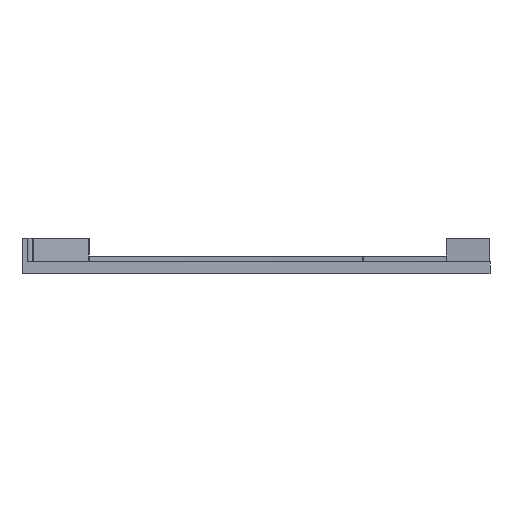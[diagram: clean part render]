
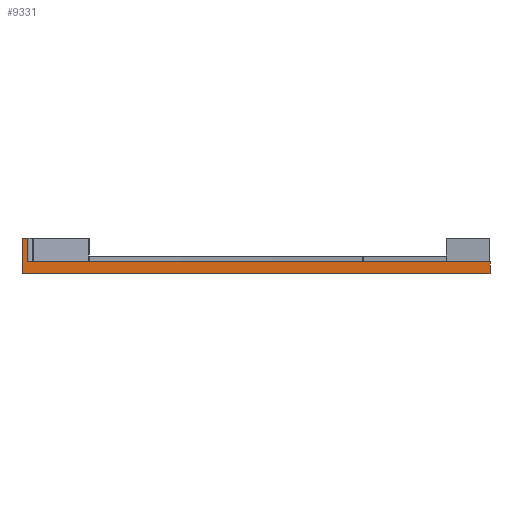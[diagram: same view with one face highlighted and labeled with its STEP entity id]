
A CAD part, front view. The second image highlights one B-rep face of the part: STEP entity #9331.
In plain terms, the highlighted planar face has unit normal (0, -1, 0).
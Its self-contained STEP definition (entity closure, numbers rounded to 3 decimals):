
#1246=FACE_OUTER_BOUND('',#1823,.T.);
#1823=EDGE_LOOP('',(#8435,#8436,#8437,#8438,#8439,#8440));
#2683=LINE('',#17256,#3570);
#2698=LINE('',#17307,#3585);
#2702=LINE('',#17319,#3589);
#2708=LINE('',#17335,#3595);
#2709=LINE('',#17337,#3596);
#2710=LINE('',#17338,#3597);
#3570=VECTOR('',#11058,10.);
#3585=VECTOR('',#11117,10.);
#3589=VECTOR('',#11127,10.);
#3595=VECTOR('',#11143,10.);
#3596=VECTOR('',#11146,10.);
#3597=VECTOR('',#11147,10.);
#4466=VERTEX_POINT('',#17253);
#4467=VERTEX_POINT('',#17255);
#4480=VERTEX_POINT('',#17304);
#4481=VERTEX_POINT('',#17306);
#4485=VERTEX_POINT('',#17316);
#4486=VERTEX_POINT('',#17318);
#5778=EDGE_CURVE('',#4467,#4466,#2683,.T.);
#5798=EDGE_CURVE('',#4480,#4481,#2698,.T.);
#5803=EDGE_CURVE('',#4485,#4486,#2702,.T.);
#5812=EDGE_CURVE('',#4466,#4481,#2708,.T.);
#5813=EDGE_CURVE('',#4480,#4486,#2709,.T.);
#5814=EDGE_CURVE('',#4467,#4485,#2710,.T.);
#8435=ORIENTED_EDGE('',*,*,#5812,.T.);
#8436=ORIENTED_EDGE('',*,*,#5798,.F.);
#8437=ORIENTED_EDGE('',*,*,#5813,.T.);
#8438=ORIENTED_EDGE('',*,*,#5803,.F.);
#8439=ORIENTED_EDGE('',*,*,#5814,.F.);
#8440=ORIENTED_EDGE('',*,*,#5778,.T.);
#8769=PLANE('',#9662);
#9331=ADVANCED_FACE('',(#1246),#8769,.T.);
#9662=AXIS2_PLACEMENT_3D('',#17336,#11144,#11145);
#11058=DIRECTION('',(-1.,0.,0.));
#11117=DIRECTION('',(1.,0.,0.));
#11127=DIRECTION('',(-1.,0.,0.));
#11143=DIRECTION('',(0.,0.,1.));
#11144=DIRECTION('center_axis',(0.,-1.,0.));
#11145=DIRECTION('ref_axis',(1.,0.,0.));
#11146=DIRECTION('',(0.,0.,-1.));
#11147=DIRECTION('',(0.,0.,-1.));
#17253=CARTESIAN_POINT('',(-39.,0.,0.));
#17255=CARTESIAN_POINT('',(40.,0.,0.));
#17256=CARTESIAN_POINT('',(40.,0.,0.));
#17304=CARTESIAN_POINT('',(-40.,0.,4.));
#17306=CARTESIAN_POINT('',(-39.,0.,4.));
#17307=CARTESIAN_POINT('',(-39.,0.,4.));
#17316=CARTESIAN_POINT('',(40.,0.,-2.));
#17318=CARTESIAN_POINT('',(-40.,0.,-2.));
#17319=CARTESIAN_POINT('',(40.,0.,-2.));
#17335=CARTESIAN_POINT('',(-39.,0.,0.));
#17336=CARTESIAN_POINT('Origin',(-40.,0.,0.));
#17337=CARTESIAN_POINT('',(-40.,0.,0.));
#17338=CARTESIAN_POINT('',(40.,0.,0.));
